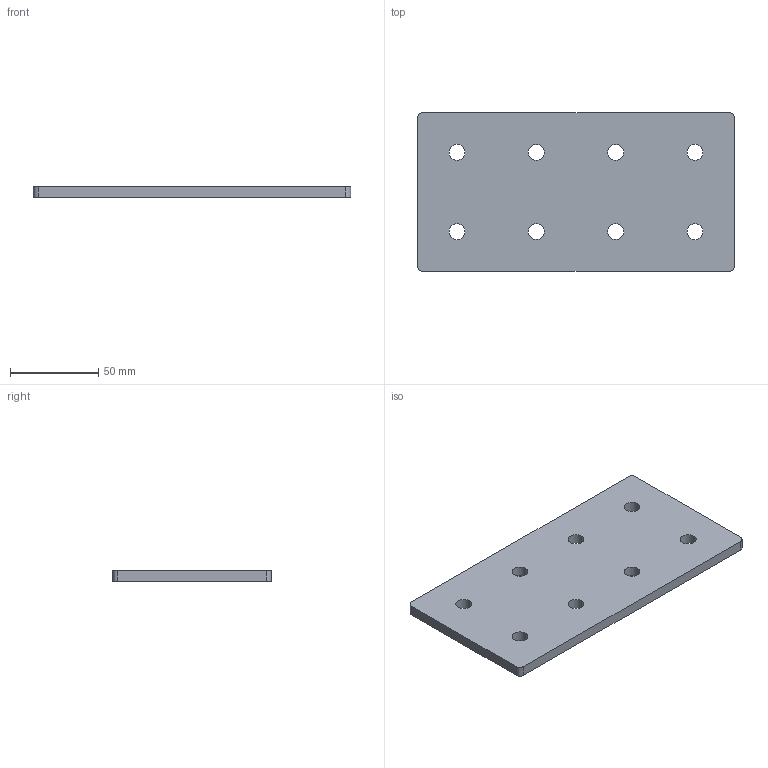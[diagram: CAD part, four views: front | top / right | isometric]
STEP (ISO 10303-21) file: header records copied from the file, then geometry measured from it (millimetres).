
FILE_DESCRIPTION (( 'STEP AP203' ), '1' );
FILE_NAME ('084.710.001.STEP', '2013-01-29T14:08:28', ( 'Alusic' ), ( 'Alusic' ), 'SwSTEP 2.0', 'SolidWorks 2011', '' );
FILE_SCHEMA (( 'CONFIG_CONTROL_DESIGN' ));
Length unit declared in the file: millimetre
Products named in the file (1): 084.710.001
Bounding box: 180 x 90 x 6 mm (x, y, z)
Volume: 94100 mm3; surface area: 35932.9 mm2
Topology: 1 solids, 1 shells, 26 faces, 72 edges, 48 vertices
Faces by surface type: cylinder 20, plane 6
Entity records: 965 total; most frequent: DIRECTION 166, CARTESIAN_POINT 147, ORIENTED_EDGE 144, EDGE_CURVE 72, AXIS2_PLACEMENT_3D 67, VERTEX_POINT 48, EDGE_LOOP 42, CIRCLE 40
